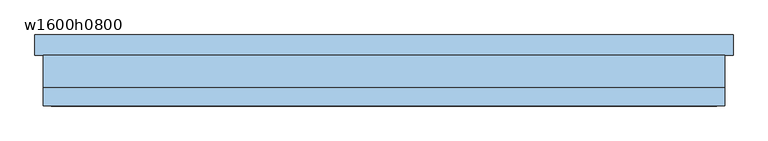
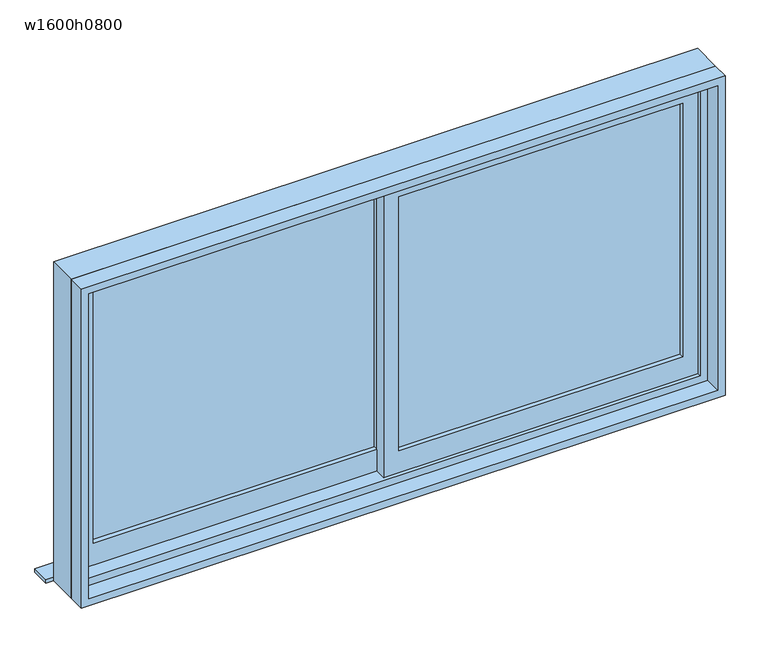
"""IFC4 building model written with IfcOpenShell, lengths in millimetres: window geometry, 引違い腰窓_2枚 : w1600h0800."""

from ifc_helpers import new_model, si_unit, frame, origin, place, context, project, spatial, polyline, outline, extrude, source, transform, mapped, element, save


def w1600h0800_d7cd19be(model_context):
    return source(origin(), model_context, "Body", "SweptSolid", [
        extrude(outline(polyline([(-20.0, 12.5), (-760.0, 12.5), (-760.0, 17.5), (-20.0, 17.5), (-20.0, 12.5)])), frame((0.0, 0.0, 1260.0), z_axis=(0.0, 0.0, 1.0), x_axis=(1.0, 0.0, 0.0)), (0.0, 0.0, 1.0), 700.0),
        extrude(outline(polyline([(760.0, -17.5), (20.0, -17.5), (20.0, -12.5), (760.0, -12.5), (760.0, -17.5)])), frame((0.0, 0.0, 1260.0), z_axis=(0.0, 0.0, 1.0), x_axis=(1.0, 0.0, 0.0)), (0.0, 0.0, 1.0), 700.0),
        extrude(outline(polyline([(2000.0, -20.0), (1200.0, -20.0), (1200.0, 800.0), (2000.0, 800.0), (2000.0, -20.0)]), holes=[polyline([(1260.0, 760.0), (1260.0, 20.0), (1960.0, 20.0), (1960.0, 760.0), (1260.0, 760.0)])]), frame((0.0, -30.0, 0.0), z_axis=(0.0, 1.0, 0.0), x_axis=(0.0, 0.0, 1.0)), (0.0, 0.0, 1.0), 30.0),
        extrude(outline(polyline([(2000.0, -800.0), (1200.0, -800.0), (1200.0, 20.0), (2000.0, 20.0), (2000.0, -800.0)]), holes=[polyline([(1260.0, -20.0), (1260.0, -760.0), (1960.0, -760.0), (1960.0, -20.0), (1260.0, -20.0)])]), frame((0.0, 0.0, 0.0), z_axis=(0.0, 1.0, 0.0), x_axis=(0.0, 0.0, 1.0)), (0.0, 0.0, 1.0), 30.0),
        extrude(outline(polyline([(860.0, 90.0), (860.0, 40.0), (-860.0, 40.0), (-860.0, 90.0), (860.0, 90.0)])), frame((0.0, 0.0, 1160.0), z_axis=(0.0, 0.0, 1.0), x_axis=(1.0, 0.0, 0.0)), (0.0, 0.0, 1.0), 10.0),
        extrude(outline(polyline([(2040.0, 840.0), (2040.0, -840.0), (1160.0, -840.0), (1160.0, 840.0), (2040.0, 840.0)]), holes=[polyline([(1180.0, -820.0), (2020.0, -820.0), (2020.0, 820.0), (1180.0, 820.0), (1180.0, -820.0)])]), frame((0.0, -85.0, 0.0), z_axis=(0.0, 1.0, 0.0), x_axis=(0.0, 0.0, 1.0)), (0.0, 0.0, 1.0), 45.0),
        extrude(outline(polyline([(2040.0, -840.0), (1160.0, -840.0), (1160.0, 840.0), (2040.0, 840.0), (2040.0, -840.0)]), holes=[polyline([(2000.0, 800.0), (1200.0, 800.0), (1200.0, -800.0), (2000.0, -800.0), (2000.0, 800.0)])]), frame((0.0, -40.0, 0.0), z_axis=(0.0, 1.0, 0.0), x_axis=(0.0, 0.0, 1.0)), (0.0, 0.0, 1.0), 80.0),
    ])


if __name__ == "__main__":
    model = new_model("IFC4")
    model_context = context("Model", 3, world=origin())
    ifc_project = project(units=[si_unit("LENGTHUNIT", "METRE", prefix="MILLI")], contexts=[model_context])
    site = spatial("IfcSite", under=ifc_project)
    building = spatial("IfcBuilding", under=site)
    placement = place(None, origin())
    w1600h0800_shape = w1600h0800_d7cd19be(model_context)
    element("IfcWindow", 1, ObjectType="引違い腰窓_2枚 : w1600h0800", at=placement, inside=building, context=model_context, shape_type="MappedRepresentation", body=[
        mapped(w1600h0800_shape, transform((0.0, 0.0, 0.0), x_axis=(1.0, 0.0, 0.0), y_axis=(0.0, 1.0, 0.0), z_axis=(0.0, 0.0, 1.0))),
    ])
    save(model, "model.ifc")
